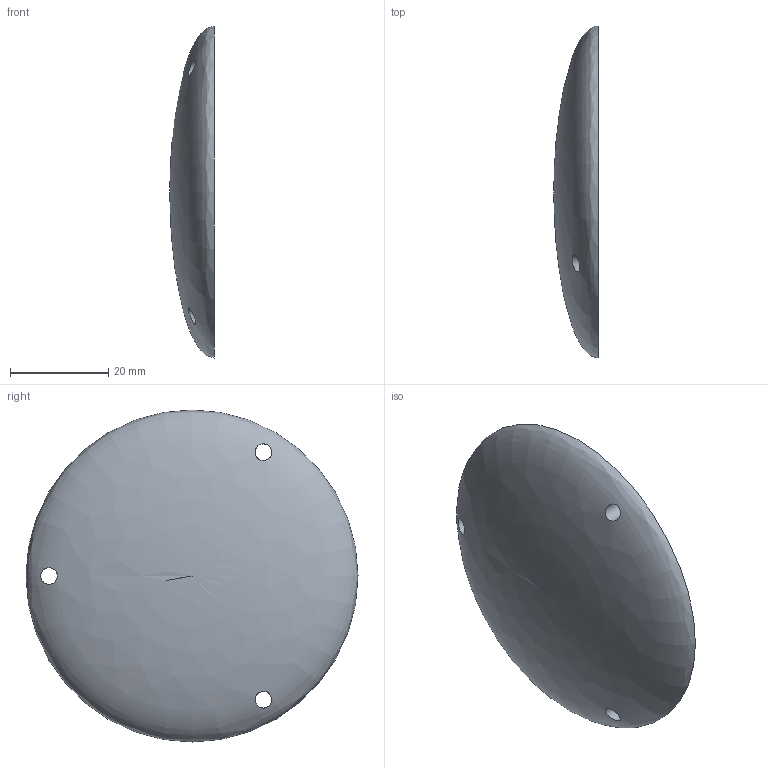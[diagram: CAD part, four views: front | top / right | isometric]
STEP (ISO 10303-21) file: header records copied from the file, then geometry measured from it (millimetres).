
FILE_DESCRIPTION(('Open CASCADE Model'),'2;1');
FILE_NAME('Open CASCADE Shape Model','2026-10-31T23:30:34',('Author'),( 'Open CASCADE'),'Open CASCADE STEP processor 7.9','Open CASCADE 7.9' ,'Unknown');
FILE_SCHEMA(('AUTOMOTIVE_DESIGN { 1 0 10303 214 1 1 1 1 }'));
Length unit declared in the file: millimetre
Products named in the file (1): Open CASCADE STEP translator 7.9 23
Bounding box: 9 x 67.6 x 67.6 mm (x, y, z)
Volume: 21410.7 mm3; surface area: 7793.4 mm2
Topology: 1 solids, 1 shells, 5 faces, 15 edges, 10 vertices
Faces by surface type: cylinder 3, plane 1, revolution 1
Full cylindrical faces by diameter (mm): 3.4 x3
Entity records: 1419 total; most frequent: CARTESIAN_POINT 1139, DIRECTION 40, ORIENTED_EDGE 28, PCURVE 28, DEFINITIONAL_REPRESENTATION 28, B_SPLINE_CURVE_WITH_KNOTS 18, LINE 17, VECTOR 17
